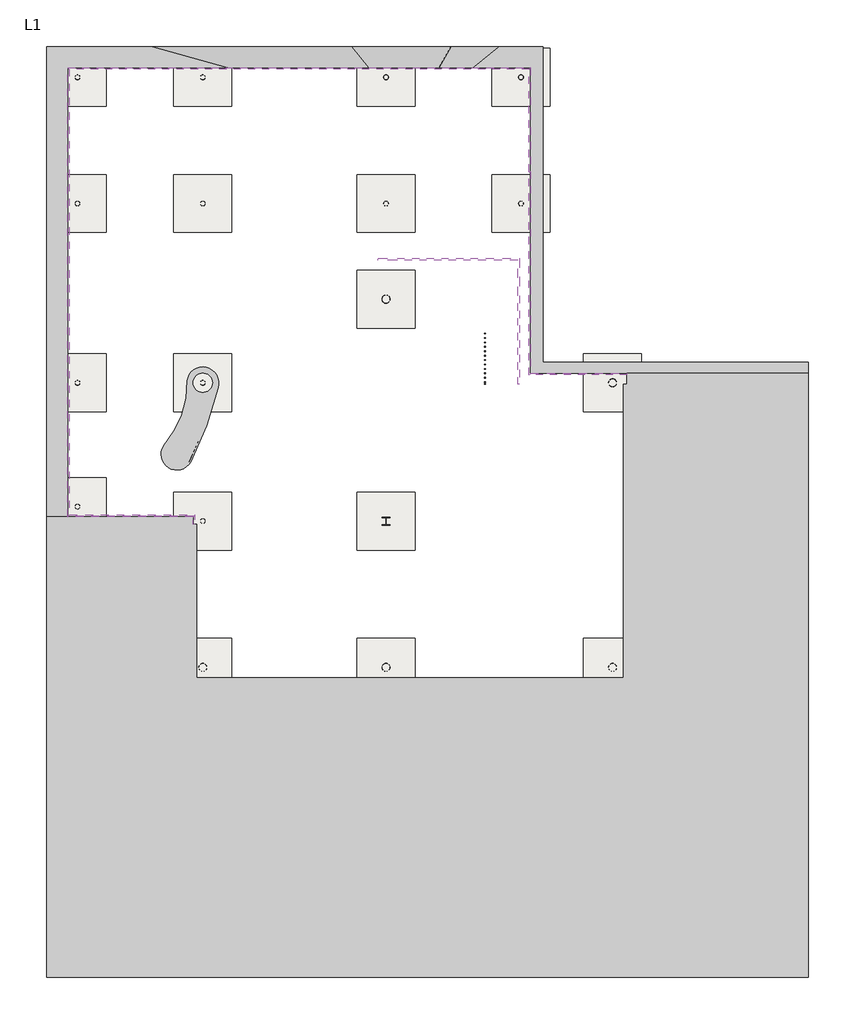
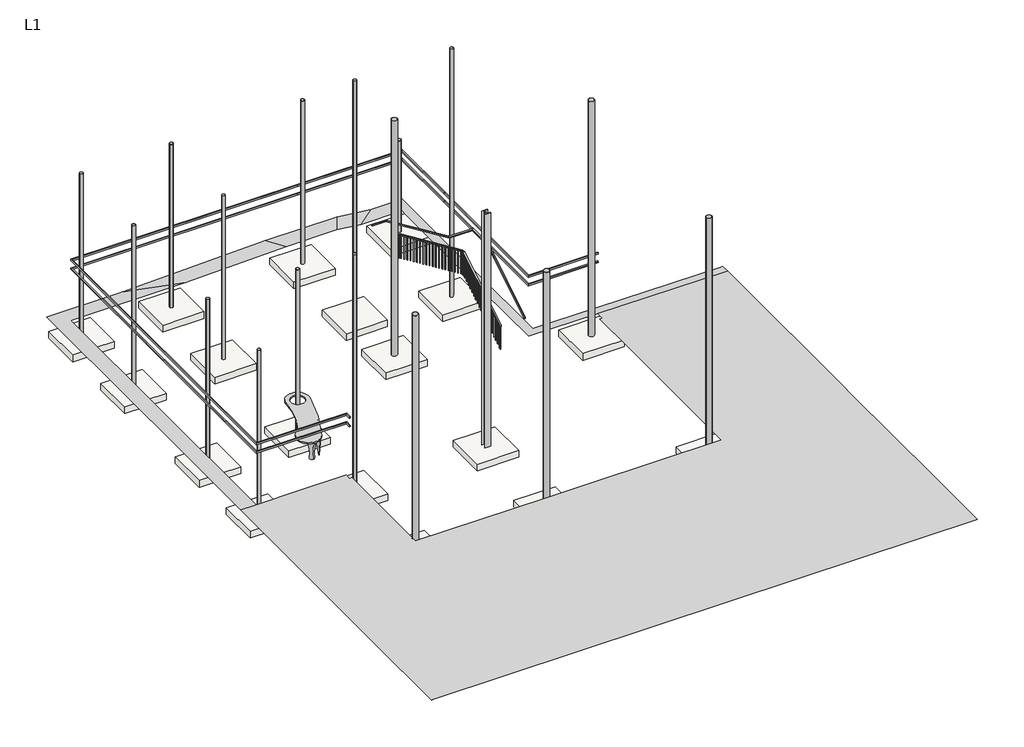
# One storey: 18 columns, 18 proxies, 18 slabs, 2 railings, 1 furniture element.
"""IFC4 building model written with IfcOpenShell, lengths in millimetres."""

from ifc_helpers import new_model, si_unit, frame, origin, place, context, project, spatial, polyline, outline, extrude, triangles, transform, mapped, element, save
from components import hss_round_hollow_structural_section_column_hss10x0_375_e5a783f9, hss_round_hollow_structural_section_column_hss6x0_375_dd265ae1, hss_round_hollow_structural_section_column_hss6x0_375_0e3342be, hss_round_hollow_structural_section_column_hss6x0_375_fb263522, hss_round_hollow_structural_section_column_hss6x0_375_acaf1047, w_wide_flange_column_w10x49_891e5d90, reception_desk_reception_desk_450a947c, railing_1100mm_f1d3f54a, railing_1100mm_wall_hosted_fa47f578, footing_rectangular_cf6_0_e8c3e57f

model = new_model("IFC4")

# Units and contexts
model_context = context("Model", 3, world=origin())
ifc_project = project(units=[si_unit("LENGTHUNIT", "METRE", prefix="MILLI")], contexts=[model_context])

# Site, building, storey
site = spatial("IfcSite", under=ifc_project)
building = spatial("IfcBuilding", under=site)
storey = spatial("IfcBuildingStorey", under=building, Name="L1", Elevation=45720.0)

# Proxies
placement = place(None, origin())
element("IfcBuildingElementProxy", 1, Name="Building Element Proxy", at=placement, inside=storey, context=model_context, shape_type="Tessellation", body=[
    triangles([(-14938.2288849, -3075.3747826, 45769.6388306), (-14264.2316528, -3075.3747826, 45772.2107666), (-14264.2316528, -1088.5216393, 45778.68479), (-14264.2316528, 2184.8701263, 45787.4563477), (-14264.2316528, 4251.2335327, 45789.9538696), (-14264.2316528, 11107.3499268, 45774.0618164), (-9208.7803482, 11107.3499268, 45770.8015503), (-4742.1724617, 11107.3499268, 45897.1612793), (-2525.7676323, 11107.3499268, 45901.3656738), (-1455.9032845, 11107.3499268, 45774.2338989), (366.1687105, 11107.3499268, 45771.5596436), (366.1687105, 10915.3581573, 45770.8015503), (366.1687105, 8743.3482925, 45756.3838257), (366.1687105, 4976.9898148, 45776.9360596), (366.1687105, 3074.1085808, 45782.2008545), (366.1687105, 1461.1977287, 45780.1312134), (366.1687105, 1450.7640633, 45780.0847046), (377.9066568, 1450.7640633, 45780.070752), (3414.1686378, 1450.7640633, 45768.5226196), (4502.3618088, 1450.7640633, 45764.3833374), (9140.9711151, 1450.7640633, 45739.3616089), (9140.9711151, 1803.1890633, 45738.3849243), (3604.4020844, 1803.1890633, 45768.2528687), (758.9712605, 1803.1890633, 45779.0754639), (758.9712605, 2919.9441536, 45780.5125854), (758.9712605, 5052.8747177, 45774.6059692), (758.9712605, 8665.1617859, 45754.8955444), (758.9712605, 11061.46203, 45770.8015503), (758.9712605, 11773.3104401, 45773.6106812), (-634.5518927, 11773.3104401, 45775.6570679), (-2147.8218063, 11773.3104401, 45955.4833008), (-5282.8159149, 11773.3104401, 45949.5301758), (-11600.6105164, 11773.3104401, 45770.8015503), (-14938.2288849, 11773.3104401, 45772.9549072), (-14938.2288849, 5032.5556091, 45788.5772095), (-14938.2288849, 2511.0714363, 45785.5262329), (-14938.2288849, -1483.2915836, 45774.8292114)], [[37, 1, 2], [35, 36, 5], [37, 3, 36], [4, 36, 3], [7, 33, 6], [5, 36, 4], [3, 37, 2], [5, 6, 35], [33, 34, 6], [7, 32, 33], [6, 34, 35], [8, 9, 31], [31, 32, 8], [31, 9, 10], [10, 30, 31], [8, 32, 7], [17, 18, 16], [16, 24, 15], [24, 16, 18], [18, 19, 24], [20, 21, 22], [20, 23, 19], [23, 20, 22], [19, 23, 24], [13, 14, 27], [30, 10, 11], [12, 13, 27], [11, 12, 28], [14, 15, 26], [25, 26, 15], [29, 11, 28], [12, 27, 28], [14, 26, 27], [15, 24, 25], [11, 29, 30]], closed=False),
])
element("IfcBuildingElementProxy", 2, Name="Building Element Proxy", at=placement, inside=storey, context=model_context, shape_type="Tessellation", body=[
    triangles([(-14938.2288849, -17638.8082306, 45732.6782959), (-14928.8248077, -17638.8082306, 45732.7015503), (1262.9813393, -17638.8082306, 45732.7015503), (9140.9711151, -17638.8082306, 45727.6692993), (9140.9711151, -14295.842514, 45732.7015503), (9140.9711151, -8053.5514435, 45732.7015503), (9140.9711151, -7307.9707901, 45732.7015503), (9140.9711151, -6338.6264694, 45736.7292114), (9140.9711151, -369.7655477, 45744.4031616), (9140.9711151, 1450.7640633, 45739.3616089), (4502.3618088, 1450.7640633, 45764.3833374), (3414.1686378, 1450.7640633, 45768.5226196), (3414.1686378, 1100.7639879, 45768.0714844), (3301.4563316, 1100.7639879, 45768.5040161), (3301.4563316, -1147.9467184, 45765.6111694), (3301.4563316, -8172.8371857, 45736.4176025), (-2489.5785622, -8172.8371857, 45743.6683228), (-4408.8669342, -8172.8371857, 45747.1471802), (-10189.1187653, -8172.8371857, 45752.5747559), (-10189.1187653, -3321.4373795, 45775.8942627), (-10301.8316528, -3321.4373795, 45776.0012329), (-10301.8316528, -3075.3747826, 45777.1825562), (-12435.5397858, -3075.3747826, 45779.187085), (-14264.2316528, -3075.3747826, 45772.2107666), (-14938.2288849, -3075.3747826, 45769.6388306), (-14938.2288849, -10756.0423004, 45744.6124512), (-14938.2288849, -13234.14104, 45732.7015503), (-14938.2288849, -17593.1110199, 45732.7015503), (-2407.4488369, -10787.3020203, 45732.7015503)], [[19, 27, 29], [2, 28, 1], [26, 27, 19], [27, 28, 29], [29, 17, 18], [29, 28, 2], [29, 18, 19], [25, 26, 24], [23, 24, 19], [21, 19, 20], [19, 21, 23], [21, 22, 23], [26, 19, 24], [29, 3, 16], [3, 29, 2], [16, 3, 5], [4, 5, 3], [6, 7, 16], [5, 6, 16], [16, 7, 8], [14, 15, 13], [12, 13, 11], [15, 11, 13], [9, 11, 15], [10, 11, 9], [9, 15, 8], [15, 16, 8], [29, 16, 17]], closed=False),
])
element("IfcBuildingElementProxy", 3, Name="Reveals", at=placement, inside=storey, context=model_context, shape_type="SweptSolid", body=[
    extrude(outline(polyline([(-14213.4313072, -3024.5748862), (-14264.2313072, -3075.3748862), (-14264.2313072, 11107.3501138), (-14213.4313072, 11056.5501138), (-14213.4313072, -3024.5748862)])), frame((0.0, 0.0, 48570.0), z_axis=(0.0, 0.0, 1.0), x_axis=(1.0, 0.0, 0.0)), (0.0, 0.0, 1.0), 63.5),
])
element("IfcBuildingElementProxy", 4, Name="Reveals", at=placement, inside=storey, context=model_context, shape_type="SweptSolid", body=[
    extrude(outline(polyline([(-14213.4313072, 11056.5501138), (-14264.2313072, 11107.3501138), (-4286.5563072, 11107.3501138), (-4286.5563072, 11056.5501138), (-14213.4313072, 11056.5501138)])), frame((0.0, 0.0, 48570.0), z_axis=(0.0, 0.0, 1.0), x_axis=(1.0, 0.0, 0.0)), (0.0, 0.0, 1.0), 63.5),
])
element("IfcBuildingElementProxy", 5, Name="Reveals", at=placement, inside=storey, context=model_context, shape_type="SweptSolid", body=[
    extrude(outline(polyline([(315.3686928, 7819.4001138), (366.1686928, 7819.4001138), (366.1686928, 1450.7640027), (315.3686928, 1399.9640027), (315.3686928, 7819.4001138)])), frame((0.0, 0.0, 48570.0), z_axis=(0.0, 0.0, 1.0), x_axis=(1.0, 0.0, 0.0)), (0.0, 0.0, 1.0), 63.5),
])
element("IfcBuildingElementProxy", 6, Name="Reveals", at=placement, inside=storey, context=model_context, shape_type="SweptSolid", body=[
    extrude(outline(polyline([(315.3686928, 1399.9640027), (366.1686928, 1450.7640027), (3414.1686928, 1450.7640027), (3414.1686928, 1399.9640027), (315.3686928, 1399.9640027)])), frame((0.0, 0.0, 48570.0), z_axis=(0.0, 0.0, 1.0), x_axis=(1.0, 0.0, 0.0)), (0.0, 0.0, 1.0), 63.5),
])
element("IfcBuildingElementProxy", 7, Name="Reveals", at=placement, inside=storey, context=model_context, shape_type="SweptSolid", body=[
    extrude(outline(polyline([(-10251.0313072, -3321.4373862), (-10301.8313072, -3321.4373862), (-10301.8313072, -3075.3748862), (-10251.0313072, -3024.5748862), (-10251.0313072, -3321.4373862)])), frame((0.0, 0.0, 48570.0), z_axis=(0.0, 0.0, 1.0), x_axis=(1.0, 0.0, 0.0)), (0.0, 0.0, 1.0), 63.5),
])
element("IfcBuildingElementProxy", 8, Name="Reveals", at=placement, inside=storey, context=model_context, shape_type="SweptSolid", body=[
    extrude(outline(polyline([(-10251.0313072, -3024.5748862), (-10301.8313072, -3075.3748862), (-14264.2313072, -3075.3748862), (-14213.4313072, -3024.5748862), (-10251.0313072, -3024.5748862)])), frame((0.0, 0.0, 48570.0), z_axis=(0.0, 0.0, 1.0), x_axis=(1.0, 0.0, 0.0)), (0.0, 0.0, 1.0), 63.5),
])
element("IfcBuildingElementProxy", 9, Name="Reveals", at=placement, inside=storey, context=model_context, shape_type="SweptSolid", body=[
    extrude(outline(polyline([(-14213.4313072, -3024.5748862), (-14264.2313072, -3075.3748862), (-14264.2313072, 11107.3501138), (-14213.4313072, 11056.5501138), (-14213.4313072, -3024.5748862)])), frame((0.0, 0.0, 48170.0), z_axis=(0.0, 0.0, 1.0), x_axis=(1.0, 0.0, 0.0)), (0.0, 0.0, 1.0), 63.5),
])
element("IfcBuildingElementProxy", 10, Name="Reveals", at=placement, inside=storey, context=model_context, shape_type="SweptSolid", body=[
    extrude(outline(polyline([(-14213.4313072, 11056.5501138), (-14264.2313072, 11107.3501138), (-4286.5563072, 11107.3501138), (-4286.5563072, 11056.5501138), (-14213.4313072, 11056.5501138)])), frame((0.0, 0.0, 48170.0), z_axis=(0.0, 0.0, 1.0), x_axis=(1.0, 0.0, 0.0)), (0.0, 0.0, 1.0), 63.5),
])
element("IfcBuildingElementProxy", 11, Name="Reveals", at=placement, inside=storey, context=model_context, shape_type="SweptSolid", body=[
    extrude(outline(polyline([(315.3686928, 7819.4001138), (366.1686928, 7819.4001138), (366.1686928, 1450.7640027), (315.3686928, 1399.9640027), (315.3686928, 7819.4001138)])), frame((0.0, 0.0, 48170.0), z_axis=(0.0, 0.0, 1.0), x_axis=(1.0, 0.0, 0.0)), (0.0, 0.0, 1.0), 63.5),
])
element("IfcBuildingElementProxy", 12, Name="Reveals", at=placement, inside=storey, context=model_context, shape_type="SweptSolid", body=[
    extrude(outline(polyline([(315.3686928, 1399.9640027), (366.1686928, 1450.7640027), (3414.1686928, 1450.7640027), (3414.1686928, 1399.9640027), (315.3686928, 1399.9640027)])), frame((0.0, 0.0, 48170.0), z_axis=(0.0, 0.0, 1.0), x_axis=(1.0, 0.0, 0.0)), (0.0, 0.0, 1.0), 63.5),
])
element("IfcBuildingElementProxy", 13, Name="Reveals", at=placement, inside=storey, context=model_context, shape_type="SweptSolid", body=[
    extrude(outline(polyline([(-10251.0313072, -3321.4373862), (-10301.8313072, -3321.4373862), (-10301.8313072, -3075.3748862), (-10251.0313072, -3024.5748862), (-10251.0313072, -3321.4373862)])), frame((0.0, 0.0, 48170.0), z_axis=(0.0, 0.0, 1.0), x_axis=(1.0, 0.0, 0.0)), (0.0, 0.0, 1.0), 63.5),
])
element("IfcBuildingElementProxy", 14, Name="Reveals", at=placement, inside=storey, context=model_context, shape_type="SweptSolid", body=[
    extrude(outline(polyline([(-10251.0313072, -3024.5748862), (-10301.8313072, -3075.3748862), (-14264.2313072, -3075.3748862), (-14213.4313072, -3024.5748862), (-10251.0313072, -3024.5748862)])), frame((0.0, 0.0, 48170.0), z_axis=(0.0, 0.0, 1.0), x_axis=(1.0, 0.0, 0.0)), (0.0, 0.0, 1.0), 63.5),
])
element("IfcBuildingElementProxy", 15, Name="Reveals", at=placement, inside=storey, context=model_context, shape_type="SweptSolid", body=[
    extrude(outline(polyline([(-4286.5563072, 11056.5501138), (-4286.5563072, 11107.3501138), (366.1686928, 11107.3501138), (315.3686928, 11056.5501138), (-4286.5563072, 11056.5501138)])), frame((0.0, 0.0, 48570.0), z_axis=(0.0, 0.0, 1.0), x_axis=(1.0, 0.0, 0.0)), (0.0, 0.0, 1.0), 63.5),
])
element("IfcBuildingElementProxy", 16, Name="Reveals", at=placement, inside=storey, context=model_context, shape_type="SweptSolid", body=[
    extrude(outline(polyline([(315.3686928, 11056.5501138), (366.1686928, 11107.3501138), (366.1686928, 7819.4001138), (315.3686928, 7819.4001138), (315.3686928, 11056.5501138)])), frame((0.0, 0.0, 48570.0), z_axis=(0.0, 0.0, 1.0), x_axis=(1.0, 0.0, 0.0)), (0.0, 0.0, 1.0), 63.5),
])
element("IfcBuildingElementProxy", 17, Name="Reveals", at=placement, inside=storey, context=model_context, shape_type="SweptSolid", body=[
    extrude(outline(polyline([(-4286.5563072, 11056.5501138), (-4286.5563072, 11107.3501138), (366.1686928, 11107.3501138), (315.3686928, 11056.5501138), (-4286.5563072, 11056.5501138)])), frame((0.0, 0.0, 48170.0), z_axis=(0.0, 0.0, 1.0), x_axis=(1.0, 0.0, 0.0)), (0.0, 0.0, 1.0), 63.5),
])
element("IfcBuildingElementProxy", 18, Name="Reveals", at=placement, inside=storey, context=model_context, shape_type="SweptSolid", body=[
    extrude(outline(polyline([(315.3686928, 11056.5501138), (366.1686928, 11107.3501138), (366.1686928, 7819.4001138), (315.3686928, 7819.4001138), (315.3686928, 11056.5501138)])), frame((0.0, 0.0, 48170.0), z_axis=(0.0, 0.0, 1.0), x_axis=(1.0, 0.0, 0.0)), (0.0, 0.0, 1.0), 63.5),
])

# Columns
hss_round_hollow_structural_section_column_hss10x0_375_shape = hss_round_hollow_structural_section_column_hss10x0_375_e5a783f9(model_context)
element("IfcColumn", 19, ObjectType="HSS-Round Hollow Structural Section-Column : HSS10X0.375", at=placement, inside=storey, context=model_context, shape_type="MappedRepresentation", body=[
    mapped(hss_round_hollow_structural_section_column_hss10x0_375_shape, transform((-9997.0313072, -7842.5381675, 0.0), x_axis=(-1.0, 0.0, 0.0), y_axis=(0.0, -1.0, 0.0), z_axis=(0.0, 0.0, 1.0))),
])
element("IfcColumn", 20, ObjectType="HSS-Round Hollow Structural Section-Column : HSS10X0.375", at=placement, inside=storey, context=model_context, shape_type="MappedRepresentation", body=[
    mapped(hss_round_hollow_structural_section_column_hss10x0_375_shape, transform((-4205.8313072, 3790.6992317, 0.0), x_axis=(-1.0, 0.0, 0.0), y_axis=(0.0, -1.0, 0.0), z_axis=(0.0, 0.0, 1.0))),
])
element("IfcColumn", 21, ObjectType="HSS-Round Hollow Structural Section-Column : HSS10X0.375", at=placement, inside=storey, context=model_context, shape_type="MappedRepresentation", body=[
    mapped(hss_round_hollow_structural_section_column_hss10x0_375_shape, transform((-4205.8313072, -7842.5381675, 0.0), x_axis=(-1.0, 0.0, 0.0), y_axis=(0.0, -1.0, 0.0), z_axis=(0.0, 0.0, 1.0))),
])
element("IfcColumn", 22, ObjectType="HSS-Round Hollow Structural Section-Column : HSS10X0.375", at=placement, inside=storey, context=model_context, shape_type="MappedRepresentation", body=[
    mapped(hss_round_hollow_structural_section_column_hss10x0_375_shape, transform((2956.9686928, 1149.0992317, 0.0), x_axis=(-1.0, 0.0, 0.0), y_axis=(0.0, -1.0, 0.0), z_axis=(0.0, 0.0, 1.0))),
])
element("IfcColumn", 23, ObjectType="HSS-Round Hollow Structural Section-Column : HSS10X0.375", at=placement, inside=storey, context=model_context, shape_type="MappedRepresentation", body=[
    mapped(hss_round_hollow_structural_section_column_hss10x0_375_shape, transform((2956.9686928, -7842.5381675, 0.0), x_axis=(-1.0, 0.0, 0.0), y_axis=(0.0, -1.0, 0.0), z_axis=(0.0, 0.0, 1.0))),
])
hss_round_hollow_structural_section_column_hss6x0_375_shape = hss_round_hollow_structural_section_column_hss6x0_375_dd265ae1(model_context)
element("IfcColumn", 24, ObjectType="HSS-Round Hollow Structural Section-Column : HSS6X0.375", at=placement, inside=storey, context=model_context, shape_type="MappedRepresentation", body=[
    mapped(hss_round_hollow_structural_section_column_hss6x0_375_shape, transform((-13959.4313072, 10801.0618325, 0.0), x_axis=(-1.0, 0.0, 0.0), y_axis=(0.0, -1.0, 0.0), z_axis=(0.0, 0.0, 1.0))),
])
element("IfcColumn", 25, ObjectType="HSS-Round Hollow Structural Section-Column : HSS6X0.375", at=placement, inside=storey, context=model_context, shape_type="MappedRepresentation", body=[
    mapped(hss_round_hollow_structural_section_column_hss6x0_375_shape, transform((-13959.4313072, 1149.0992317, 0.0), x_axis=(-1.0, 0.0, 0.0), y_axis=(0.0, -1.0, 0.0), z_axis=(0.0, 0.0, 1.0))),
])
element("IfcColumn", 26, ObjectType="HSS-Round Hollow Structural Section-Column : HSS6X0.375", at=placement, inside=storey, context=model_context, shape_type="MappedRepresentation", body=[
    mapped(hss_round_hollow_structural_section_column_hss6x0_375_shape, transform((-13959.4313072, -2762.5381675, 0.0), x_axis=(-1.0, 0.0, 0.0), y_axis=(0.0, -1.0, 0.0), z_axis=(0.0, 0.0, 1.0))),
])
element("IfcColumn", 27, ObjectType="HSS-Round Hollow Structural Section-Column : HSS6X0.375", at=placement, inside=storey, context=model_context, shape_type="MappedRepresentation", body=[
    mapped(hss_round_hollow_structural_section_column_hss6x0_375_shape, transform((-9997.0313072, 10801.0618325, 0.0), x_axis=(-1.0, 0.0, 0.0), y_axis=(0.0, -1.0, 0.0), z_axis=(0.0, 0.0, 1.0))),
])
element("IfcColumn", 28, ObjectType="HSS-Round Hollow Structural Section-Column : HSS6X0.375", at=placement, inside=storey, context=model_context, shape_type="MappedRepresentation", body=[
    mapped(hss_round_hollow_structural_section_column_hss6x0_375_shape, transform((-9997.0313072, 1149.0992317, 0.0), x_axis=(-1.0, 0.0, 0.0), y_axis=(0.0, -1.0, 0.0), z_axis=(0.0, 0.0, 1.0))),
])
element("IfcColumn", 29, ObjectType="HSS-Round Hollow Structural Section-Column : HSS6X0.375", at=placement, inside=storey, context=model_context, shape_type="MappedRepresentation", body=[
    mapped(hss_round_hollow_structural_section_column_hss6x0_375_shape, transform((-4205.8313072, 10801.0618325, 0.0), x_axis=(-1.0, 0.0, 0.0), y_axis=(0.0, -1.0, 0.0), z_axis=(0.0, 0.0, 1.0))),
])
element("IfcColumn", 30, ObjectType="HSS-Round Hollow Structural Section-Column : HSS6X0.375", at=placement, inside=storey, context=model_context, shape_type="MappedRepresentation", body=[
    mapped(hss_round_hollow_structural_section_column_hss6x0_375_shape, transform((-13959.4313072, 6813.2618325, 0.0), x_axis=(-1.0, 0.0, 0.0), y_axis=(0.0, -1.0, 0.0), z_axis=(0.0, 0.0, 1.0))),
])
element("IfcColumn", 31, ObjectType="HSS-Round Hollow Structural Section-Column : HSS6X0.375", at=placement, inside=storey, context=model_context, shape_type="MappedRepresentation", body=[
    mapped(hss_round_hollow_structural_section_column_hss6x0_375_shape, transform((-9997.0313072, 6813.2618325, 0.0), x_axis=(-1.0, 0.0, 0.0), y_axis=(0.0, -1.0, 0.0), z_axis=(0.0, 0.0, 1.0))),
])
hss_round_hollow_structural_section_column_hss6x0_375_2_shape = hss_round_hollow_structural_section_column_hss6x0_375_0e3342be(model_context)
element("IfcColumn", 32, ObjectType="HSS-Round Hollow Structural Section-Column : HSS6X0.375", at=placement, inside=storey, context=model_context, shape_type="MappedRepresentation", body=[
    mapped(hss_round_hollow_structural_section_column_hss6x0_375_2_shape, transform((61.3686928, 10801.0618325, 0.0), x_axis=(-1.0, 0.0, 0.0), y_axis=(0.0, -1.0, 0.0), z_axis=(0.0, 0.0, 1.0))),
])
hss_round_hollow_structural_section_column_hss6x0_375_3_shape = hss_round_hollow_structural_section_column_hss6x0_375_fb263522(model_context)
element("IfcColumn", 33, ObjectType="HSS-Round Hollow Structural Section-Column : HSS6X0.375", at=placement, inside=storey, context=model_context, shape_type="MappedRepresentation", body=[
    mapped(hss_round_hollow_structural_section_column_hss6x0_375_3_shape, transform((-4205.8313072, 6813.2618325, 0.0), x_axis=(-1.0, 0.0, 0.0), y_axis=(0.0, -1.0, 0.0), z_axis=(0.0, 0.0, 1.0))),
])
element("IfcColumn", 34, ObjectType="HSS-Round Hollow Structural Section-Column : HSS6X0.375", at=placement, inside=storey, context=model_context, shape_type="MappedRepresentation", body=[
    mapped(hss_round_hollow_structural_section_column_hss6x0_375_3_shape, transform((-9997.0313072, -3219.7007683, 0.0), x_axis=(-1.0, 0.0, 0.0), y_axis=(0.0, -1.0, 0.0), z_axis=(0.0, 0.0, 1.0))),
])
hss_round_hollow_structural_section_column_hss6x0_375_4_shape = hss_round_hollow_structural_section_column_hss6x0_375_acaf1047(model_context)
element("IfcColumn", 35, ObjectType="HSS-Round Hollow Structural Section-Column : HSS6X0.375", at=placement, inside=storey, context=model_context, shape_type="MappedRepresentation", body=[
    mapped(hss_round_hollow_structural_section_column_hss6x0_375_4_shape, transform((61.3686928, 6813.2618325, 0.0), x_axis=(-1.0, 0.0, 0.0), y_axis=(0.0, -1.0, 0.0), z_axis=(0.0, 0.0, 1.0))),
])
w_wide_flange_column_w10x49_shape = w_wide_flange_column_w10x49_891e5d90(model_context)
element("IfcColumn", 36, ObjectType="W-Wide Flange-Column : W10X49", at=placement, inside=storey, context=model_context, shape_type="MappedRepresentation", body=[
    mapped(w_wide_flange_column_w10x49_shape, transform((-4205.8313072, -3219.7007683, 0.0), x_axis=(-1.0, 0.0, 0.0), y_axis=(0.0, -1.0, 0.0), z_axis=(0.0, 0.0, 1.0))),
])

# Furniture
reception_desk_reception_desk_shape = reception_desk_reception_desk_450a947c(model_context)
element("IfcFurniture", 37, ObjectType="Reception Desk : Reception Desk", at=placement, inside=storey, context=model_context, shape_type="MappedRepresentation", body=[
    mapped(reception_desk_reception_desk_shape, transform((0.0, 0.0, 0.0), x_axis=(1.0, 0.0, 0.0), y_axis=(0.0, 1.0, 0.0), z_axis=(0.0, 0.0, 1.0))),
])

# Railings
railing_1100mm_shape = railing_1100mm_f1d3f54a(model_context)
element("IfcRailing", 38, ObjectType="1100mm", at=placement, inside=storey, context=model_context, shape_type="MappedRepresentation", body=[
    mapped(railing_1100mm_shape, transform((0.0, 0.0, 0.0), x_axis=(1.0, 0.0, 0.0), y_axis=(0.0, 1.0, 0.0), z_axis=(0.0, 0.0, 1.0))),
])
railing_1100mm_wall_hosted_shape = railing_1100mm_wall_hosted_fa47f578(model_context)
element("IfcRailing", 39, ObjectType="1100mm Wall Hosted", at=placement, inside=storey, context=model_context, shape_type="MappedRepresentation", body=[
    mapped(railing_1100mm_wall_hosted_shape, transform((0.0, 0.0, 0.0), x_axis=(1.0, 0.0, 0.0), y_axis=(0.0, 1.0, 0.0), z_axis=(0.0, 0.0, 1.0))),
])

# Slabs
footing_rectangular_cf6_0_shape = footing_rectangular_cf6_0_e8c3e57f(model_context)
element("IfcSlab", 40, ObjectType="Footing-Rectangular : CF6.0", at=placement, inside=storey, context=model_context, shape_type="MappedRepresentation", body=[
    mapped(footing_rectangular_cf6_0_shape, transform((-13959.4313072, 10801.0618325, 45110.4), x_axis=(-1.0, 0.0, 0.0), y_axis=(0.0, -1.0, 0.0), z_axis=(0.0, 0.0, 1.0))),
])
element("IfcSlab", 41, ObjectType="Footing-Rectangular : CF6.0", at=placement, inside=storey, context=model_context, shape_type="MappedRepresentation", body=[
    mapped(footing_rectangular_cf6_0_shape, transform((-13959.4313072, 1149.0992317, 45110.4), x_axis=(-1.0, 0.0, 0.0), y_axis=(0.0, -1.0, 0.0), z_axis=(0.0, 0.0, 1.0))),
])
element("IfcSlab", 42, ObjectType="Footing-Rectangular : CF6.0", at=placement, inside=storey, context=model_context, shape_type="MappedRepresentation", body=[
    mapped(footing_rectangular_cf6_0_shape, transform((-13959.4313072, -2762.5381675, 45110.4), x_axis=(-1.0, 0.0, 0.0), y_axis=(0.0, -1.0, 0.0), z_axis=(0.0, 0.0, 1.0))),
])
element("IfcSlab", 43, ObjectType="Footing-Rectangular : CF6.0", at=placement, inside=storey, context=model_context, shape_type="MappedRepresentation", body=[
    mapped(footing_rectangular_cf6_0_shape, transform((-9997.0313072, 10801.0618325, 45110.4), x_axis=(-1.0, 0.0, 0.0), y_axis=(0.0, -1.0, 0.0), z_axis=(0.0, 0.0, 1.0))),
])
element("IfcSlab", 44, ObjectType="Footing-Rectangular : CF6.0", at=placement, inside=storey, context=model_context, shape_type="MappedRepresentation", body=[
    mapped(footing_rectangular_cf6_0_shape, transform((-9997.0313072, 1149.0992317, 45110.4), x_axis=(-1.0, 0.0, 0.0), y_axis=(0.0, -1.0, 0.0), z_axis=(0.0, 0.0, 1.0))),
])
element("IfcSlab", 45, ObjectType="Footing-Rectangular : CF6.0", at=placement, inside=storey, context=model_context, shape_type="MappedRepresentation", body=[
    mapped(footing_rectangular_cf6_0_shape, transform((-9997.0313072, -7842.5381675, 45110.4), x_axis=(-1.0, 0.0, 0.0), y_axis=(0.0, -1.0, 0.0), z_axis=(0.0, 0.0, 1.0))),
])
element("IfcSlab", 46, ObjectType="Footing-Rectangular : CF6.0", at=placement, inside=storey, context=model_context, shape_type="MappedRepresentation", body=[
    mapped(footing_rectangular_cf6_0_shape, transform((-4205.8313072, 10801.0618325, 45110.4), x_axis=(-1.0, 0.0, 0.0), y_axis=(0.0, -1.0, 0.0), z_axis=(0.0, 0.0, 1.0))),
])
element("IfcSlab", 47, ObjectType="Footing-Rectangular : CF6.0", at=placement, inside=storey, context=model_context, shape_type="MappedRepresentation", body=[
    mapped(footing_rectangular_cf6_0_shape, transform((-4205.8313072, 3790.6992317, 45110.4), x_axis=(-1.0, 0.0, 0.0), y_axis=(0.0, -1.0, 0.0), z_axis=(0.0, 0.0, 1.0))),
])
element("IfcSlab", 48, ObjectType="Footing-Rectangular : CF6.0", at=placement, inside=storey, context=model_context, shape_type="MappedRepresentation", body=[
    mapped(footing_rectangular_cf6_0_shape, transform((-4205.8313072, -7842.5381675, 45110.4), x_axis=(-1.0, 0.0, 0.0), y_axis=(0.0, -1.0, 0.0), z_axis=(0.0, 0.0, 1.0))),
])
element("IfcSlab", 49, ObjectType="Footing-Rectangular : CF6.0", at=placement, inside=storey, context=model_context, shape_type="MappedRepresentation", body=[
    mapped(footing_rectangular_cf6_0_shape, transform((61.3686928, 10801.0618325, 45110.4), x_axis=(-1.0, 0.0, 0.0), y_axis=(0.0, -1.0, 0.0), z_axis=(0.0, 0.0, 1.0))),
])
element("IfcSlab", 50, ObjectType="Footing-Rectangular : CF6.0", at=placement, inside=storey, context=model_context, shape_type="MappedRepresentation", body=[
    mapped(footing_rectangular_cf6_0_shape, transform((2956.9686928, 1149.0992317, 45110.4), x_axis=(-1.0, 0.0, 0.0), y_axis=(0.0, -1.0, 0.0), z_axis=(0.0, 0.0, 1.0))),
])
element("IfcSlab", 51, ObjectType="Footing-Rectangular : CF6.0", at=placement, inside=storey, context=model_context, shape_type="MappedRepresentation", body=[
    mapped(footing_rectangular_cf6_0_shape, transform((2956.9686928, -7842.5381675, 45110.4), x_axis=(-1.0, 0.0, 0.0), y_axis=(0.0, -1.0, 0.0), z_axis=(0.0, 0.0, 1.0))),
])
element("IfcSlab", 52, ObjectType="Footing-Rectangular : CF6.0", at=placement, inside=storey, context=model_context, shape_type="MappedRepresentation", body=[
    mapped(footing_rectangular_cf6_0_shape, transform((-13959.4313072, 6813.2618325, 45110.4), x_axis=(-1.0, 0.0, 0.0), y_axis=(0.0, -1.0, 0.0), z_axis=(0.0, 0.0, 1.0))),
])
element("IfcSlab", 53, ObjectType="Footing-Rectangular : CF6.0", at=placement, inside=storey, context=model_context, shape_type="MappedRepresentation", body=[
    mapped(footing_rectangular_cf6_0_shape, transform((-9997.0313072, 6813.2618325, 45110.4), x_axis=(-1.0, 0.0, 0.0), y_axis=(0.0, -1.0, 0.0), z_axis=(0.0, 0.0, 1.0))),
])
element("IfcSlab", 54, ObjectType="Footing-Rectangular : CF6.0", at=placement, inside=storey, context=model_context, shape_type="MappedRepresentation", body=[
    mapped(footing_rectangular_cf6_0_shape, transform((-4205.8313072, 6813.2618325, 45110.4), x_axis=(-1.0, 0.0, 0.0), y_axis=(0.0, -1.0, 0.0), z_axis=(0.0, 0.0, 1.0))),
])
element("IfcSlab", 55, ObjectType="Footing-Rectangular : CF6.0", at=placement, inside=storey, context=model_context, shape_type="MappedRepresentation", body=[
    mapped(footing_rectangular_cf6_0_shape, transform((61.3686928, 6813.2618325, 44500.8), x_axis=(-1.0, 0.0, 0.0), y_axis=(0.0, -1.0, 0.0), z_axis=(0.0, 0.0, 1.0))),
])
element("IfcSlab", 56, ObjectType="Footing-Rectangular : CF6.0", at=placement, inside=storey, context=model_context, shape_type="MappedRepresentation", body=[
    mapped(footing_rectangular_cf6_0_shape, transform((-9997.0313072, -3219.7007683, 45110.4), x_axis=(-1.0, 0.0, 0.0), y_axis=(0.0, -1.0, 0.0), z_axis=(0.0, 0.0, 1.0))),
])
element("IfcSlab", 57, ObjectType="Footing-Rectangular : CF6.0", at=placement, inside=storey, context=model_context, shape_type="MappedRepresentation", body=[
    mapped(footing_rectangular_cf6_0_shape, transform((-4205.8313072, -3219.7007683, 45110.4), x_axis=(-1.0, 0.0, 0.0), y_axis=(0.0, -1.0, 0.0), z_axis=(0.0, 0.0, 1.0))),
])

save(model, "model.ifc")
